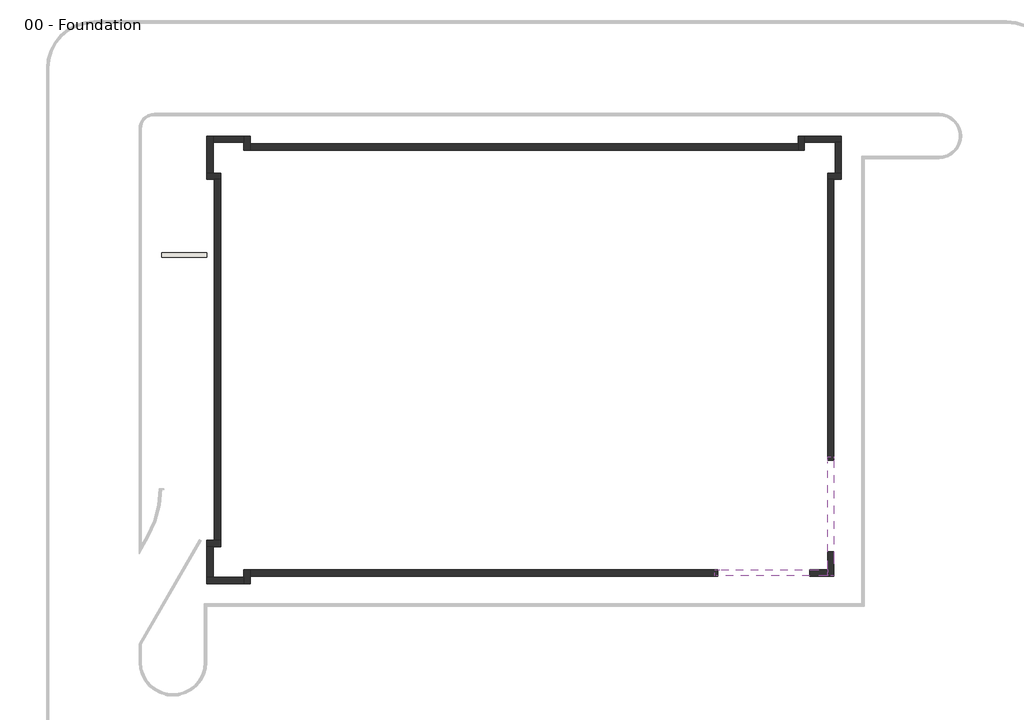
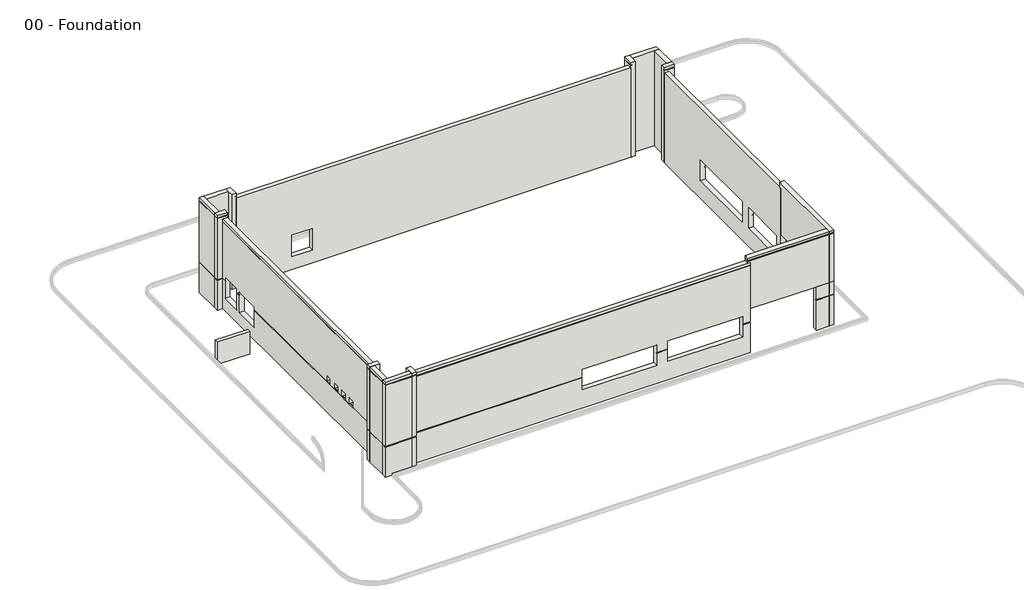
# One storey, part 1 of 2: 21 walls.
"""IFC4 building model written with IfcOpenShell, lengths in millimetres."""

from ifc_helpers import new_model, si_unit, frame, origin, place, context, project, spatial, polyline, outline, extrude, faceted_brep, element, save

model = new_model("IFC4")

# Units and contexts
model_context = context("Model", 3, world=origin())
ifc_project = project(units=[si_unit("LENGTHUNIT", "METRE", prefix="MILLI")], contexts=[model_context])

# Site, building, storey
site = spatial("IfcSite", under=ifc_project)
building = spatial("IfcBuilding", under=site)
storey = spatial("IfcBuildingStorey", under=building, Name="00 - Foundation", Elevation=-1250.0)

# Walls
placement = place(None, origin())
element("IfcWall", 1, ObjectType="Exterior - Render on Brick on Block @ Entry", at=placement, inside=storey, context=model_context, shape_type="Brep", body=[
    faceted_brep([(18351.5272279, -6696.4313057, 3000.0), (18351.5272279, -12792.4313057, 3000.0), (18351.5272279, -13977.9313057, 3000.0), (18351.5272279, -14406.9313057, 3000.0), (18351.5272279, -14406.9313057, 7700.0), (18351.5272279, -14331.9313057, 7700.0), (18351.5272279, -14331.9313057, 7775.0), (18351.5272279, -14406.9313057, 7775.0), (18351.5272279, -14406.9313057, 8000.0), (18351.5272279, -13977.9313057, 8000.0), (18351.5272279, -6910.9313057, 8000.0), (18351.5272279, -6481.9313057, 8000.0), (18351.5272279, -6481.9313057, 7775.0), (18351.5272279, -6556.9313057, 7775.0), (18351.5272279, -6556.9313057, 7700.0), (18351.5272279, -6481.9313057, 7700.0), (18351.5272279, -6481.9313057, 7500.0), (18351.5272279, -6696.4313057, 7500.0), (18780.5272279, -6481.9313057, 8000.0), (18780.5272279, -14406.9313057, 8000.0), (18780.5272279, -14406.9313057, 7775.0), (18780.5272279, -6481.9313057, 7775.0), (18780.5272279, -14406.9313057, 3000.0), (18780.5272279, -12792.4313057, 3000.0), (18780.5272279, -6696.4313057, 3000.0), (18780.5272279, -6696.4313057, 7200.0), (18780.5272279, -6696.4313057, 7275.0), (18780.5272279, -6696.4313057, 7500.0), (18780.5272279, -6481.9313057, 7500.0), (18780.5272279, -6481.9313057, 7700.0), (18780.5272279, -14406.9313057, 7700.0), (18705.5272279, -6556.9313057, 7700.0), (18705.5272279, -6556.9313057, 7775.0), (18705.5272279, -14331.9313057, 7775.0), (18705.5272279, -14331.9313057, 7700.0)], [[[0, 1, 2, 3, 4, 5, 6, 7, 8, 9, 10, 11, 12, 13, 14, 15, 16, 17]], [[18, 19, 20, 21]], [[22, 23, 24, 25, 26, 27, 28, 29, 30]], [[3, 2, 1, 0, 24, 23, 22]], [[11, 10, 9, 8, 19, 18]], [[31, 32, 33, 34]], [[19, 8, 7, 20]], [[3, 22, 30, 4]], [[33, 32, 13, 12, 21, 20, 7, 6]], [[31, 34, 5, 4, 30, 29, 15, 14]], [[32, 31, 14, 13]], [[34, 33, 6, 5]], [[24, 0, 17, 27, 26, 25]], [[28, 27, 17, 16]], [[11, 18, 21, 12]], [[28, 16, 15, 29]]]),
])
element("IfcWall", 2, ObjectType="Exterior - Render on Brick on Block @ Entry", at=placement, inside=storey, context=model_context, shape_type="Brep", body=[
    faceted_brep([(18351.5272279, -13977.9313057, 3000.0), (17166.0272279, -13977.9313057, 3000.0), (11070.0272279, -13977.9313057, 3000.0), (11070.0272279, -13977.9313057, 7500.0), (10855.5272279, -13977.9313057, 7500.0), (10855.5272279, -13977.9313057, 7700.0), (10930.5272279, -13977.9313057, 7700.0), (10930.5272279, -13977.9313057, 7775.0), (10855.5272279, -13977.9313057, 7775.0), (10855.5272279, -13977.9313057, 8000.0), (11284.5272279, -13977.9313057, 8000.0), (18351.5272279, -13977.9313057, 8000.0), (18351.5272279, -14406.9313057, 8000.0), (10855.5272279, -14406.9313057, 8000.0), (10855.5272279, -14406.9313057, 7775.0), (18351.5272279, -14406.9313057, 7775.0), (11070.0272279, -14406.9313057, 3000.0), (17166.0272279, -14406.9313057, 3000.0), (18351.5272279, -14406.9313057, 3000.0), (18351.5272279, -14406.9313057, 7700.0), (10855.5272279, -14406.9313057, 7700.0), (10855.5272279, -14406.9313057, 7500.0), (11070.0272279, -14406.9313057, 7500.0), (11070.0272279, -14406.9313057, 7275.0), (11070.0272279, -14406.9313057, 7200.0), (18351.5272279, -14331.9313057, 7700.0), (18351.5272279, -14331.9313057, 7775.0), (10930.5272279, -14331.9313057, 7775.0), (10930.5272279, -14331.9313057, 7700.0)], [[[0, 1, 2, 3, 4, 5, 6, 7, 8, 9, 10, 11]], [[12, 13, 14, 15]], [[16, 17, 18, 19, 20, 21, 22, 23, 24]], [[2, 1, 0, 18, 17, 16]], [[11, 10, 9, 13, 12]], [[25, 26, 27, 28]], [[0, 11, 12, 15, 26, 25, 19, 18]], [[15, 14, 8, 7, 27, 26]], [[20, 19, 25, 28, 6, 5]], [[2, 16, 24, 23, 22, 3]], [[4, 3, 22, 21]], [[4, 21, 20, 5]], [[13, 9, 8, 14]], [[28, 27, 7, 6]]]),
])
element("IfcWall", 3, ObjectType="Exterior - Render on Brick on Block", at=placement, inside=storey, context=model_context, shape_type="Brep", body=[
    faceted_brep([(11070.0272279, -13977.9313057, -1250.0), (-20031.4727721, -13977.9313057, -1250.0), (-20031.4727721, -13977.9313057, 7500.0), (10855.5272279, -13977.9313057, 7500.0), (11070.0272279, -13977.9313057, 7500.0), (11070.0272279, -13977.9313057, 3000.0), (-4494.4727721, -13977.9313057, 2500.0), (-4494.4727721, -13977.9313057, 500.0), (2430.5272279, -13977.9313057, 500.0), (2430.5272279, -13977.9313057, 2500.0), (10355.5272279, -13977.9313057, 500.0), (10355.5272279, -13977.9313057, 2500.0), (3430.5272279, -13977.9313057, 2500.0), (3430.5272279, -13977.9313057, 500.0), (11070.0272279, -14406.9313057, 7500.0), (-20031.4727721, -14406.9313057, 7500.0), (-20031.4727721, -14406.9313057, 7275.0), (11070.0272279, -14406.9313057, 7275.0), (-20031.4727721, -14406.9313057, -1250.0), (11070.0272279, -14406.9313057, -1250.0), (11070.0272279, -14406.9313057, 1675.0), (10355.5272279, -14406.9313057, 1675.0), (10355.5272279, -14406.9313057, 500.0), (3430.5272279, -14406.9313057, 500.0), (3430.5272279, -14406.9313057, 1675.0), (2430.5272279, -14406.9313057, 1675.0), (2430.5272279, -14406.9313057, 500.0), (-4494.4727721, -14406.9313057, 500.0), (-4494.4727721, -14406.9313057, 1675.0), (-20031.4727721, -14406.9313057, 1675.0), (-20031.4727721, -14406.9313057, 1750.0), (-4494.4727721, -14406.9313057, 1750.0), (-4494.4727721, -14406.9313057, 2500.0), (2430.5272279, -14406.9313057, 2500.0), (2430.5272279, -14406.9313057, 1750.0), (3430.5272279, -14406.9313057, 1750.0), (3430.5272279, -14406.9313057, 2500.0), (10355.5272279, -14406.9313057, 2500.0), (10355.5272279, -14406.9313057, 1750.0), (11070.0272279, -14406.9313057, 1750.0), (11070.0272279, -14406.9313057, 7200.0), (-20031.4727721, -14406.9313057, 7200.0), (11070.0272279, -14331.9313057, 7275.0), (11070.0272279, -14331.9313057, 7200.0), (11070.0272279, -14331.9313057, 1750.0), (11070.0272279, -14331.9313057, 1675.0), (11070.0272279, -14381.9313057, -1250.0), (-20031.4727721, -14381.9313057, -1250.0), (-20031.4727721, -14331.9313057, 1750.0), (-4494.4727721, -14331.9313057, 1750.0), (-4494.4727721, -14331.9313057, 1675.0), (-20031.4727721, -14331.9313057, 1675.0), (-20031.4727721, -14331.9313057, 7275.0), (-20031.4727721, -14331.9313057, 7200.0), (2430.5272279, -14331.9313057, 1675.0), (2430.5272279, -14331.9313057, 1750.0), (3430.5272279, -14331.9313057, 1750.0), (3430.5272279, -14331.9313057, 1675.0), (10355.5272279, -14331.9313057, 1675.0), (10355.5272279, -14331.9313057, 1750.0)], [[[0, 1, 2, 3, 4, 5], [6, 7, 8, 9], [10, 11, 12, 13]], [[14, 15, 16, 17]], [[18, 19, 20, 21, 22, 23, 24, 25, 26, 27, 28, 29]], [[30, 31, 32, 33, 34, 35, 36, 37, 38, 39, 40, 41]], [[4, 3, 2, 15, 14]], [[0, 5, 4, 14, 17, 42, 43, 40, 39, 44, 45, 20, 19, 46]], [[1, 0, 46, 47]], [[46, 19, 18, 47]], [[31, 30, 48, 49]], [[29, 28, 50, 51]], [[49, 48, 51, 50]], [[52, 42, 17, 16]], [[43, 53, 41, 40]], [[42, 52, 53, 43]], [[2, 1, 47, 18, 29, 51, 48, 30, 41, 53, 52, 16, 15]], [[27, 7, 6, 32, 31, 49, 50, 28]], [[32, 6, 9, 33]], [[33, 9, 8, 26, 25, 54, 55, 34]], [[7, 27, 26, 8]], [[55, 56, 35, 34]], [[57, 54, 25, 24]], [[56, 55, 54, 57]], [[10, 22, 21, 58, 59, 38, 37, 11]], [[11, 37, 36, 12]], [[12, 36, 35, 56, 57, 24, 23, 13]], [[22, 10, 13, 23]], [[59, 44, 39, 38]], [[45, 58, 21, 20]], [[44, 59, 58, 45]]]),
])
element("IfcWall", 4, ObjectType="Exterior - Render on Brick on Block", at=placement, inside=storey, context=model_context, shape_type="Brep", body=[
    faceted_brep([(-20460.4727721, -13977.9313057, -1250.0), (-20460.4727721, -14477.7313057, -1250.0), (-20460.4727721, -14906.7313057, -1250.0), (-20460.4727721, -14906.7313057, 1675.0), (-20460.4727721, -14831.7313057, 1675.0), (-20460.4727721, -14831.7313057, 1750.0), (-20460.4727721, -14906.7313057, 1750.0), (-20460.4727721, -14906.7313057, 7700.0), (-20460.4727721, -14831.7313057, 7700.0), (-20460.4727721, -14831.7313057, 7775.0), (-20460.4727721, -14906.7313057, 7775.0), (-20460.4727721, -14906.7313057, 8000.0), (-20460.4727721, -14477.7313057, 8000.0), (-20460.4727721, -13977.9313057, 8000.0), (-20031.4727721, -13977.9313057, 8000.0), (-20031.4727721, -14906.7313057, 8000.0), (-20031.4727721, -14906.7313057, 7775.0), (-20031.4727721, -13977.9313057, 7775.0), (-20031.4727721, -14906.7313057, -1250.0), (-20031.4727721, -14406.9313057, -1250.0), (-20031.4727721, -13977.9313057, -1250.0), (-20031.4727721, -13977.9313057, 7500.0), (-20031.4727721, -13977.9313057, 7700.0), (-20031.4727721, -14906.7313057, 7700.0), (-20031.4727721, -14906.7313057, 1750.0), (-20031.4727721, -14406.9313057, 1750.0), (-20031.4727721, -14331.9313057, 1750.0), (-20031.4727721, -14331.9313057, 1675.0), (-20031.4727721, -14406.9313057, 1675.0), (-20031.4727721, -14906.7313057, 1675.0), (-20056.4727721, -13977.9313057, -1250.0), (-20056.4727721, -14906.7313057, -1250.0), (-20106.4727721, -14331.9313057, 1675.0), (-20106.4727721, -14331.9313057, 1750.0), (-20106.4727721, -14831.7313057, 1750.0), (-20106.4727721, -14831.7313057, 1675.0), (-20106.4727721, -14831.7313057, 7775.0), (-20106.4727721, -13977.9313057, 7775.0), (-20106.4727721, -13977.9313057, 7700.0), (-20106.4727721, -14831.7313057, 7700.0)], [[[0, 1, 2, 3, 4, 5, 6, 7, 8, 9, 10, 11, 12, 13]], [[14, 15, 16, 17]], [[18, 19, 20, 21, 22, 23, 24, 25, 26, 27, 28, 29]], [[13, 12, 11, 15, 14]], [[2, 1, 0, 30, 31]], [[32, 33, 34, 35]], [[36, 37, 17, 16, 10, 9]], [[38, 39, 8, 7, 23, 22]], [[37, 36, 39, 38]], [[0, 13, 14, 17, 37, 38, 22, 21, 20, 30]], [[20, 19, 18, 31, 30]], [[34, 33, 26, 25, 24, 6, 5]], [[32, 35, 4, 3, 29, 28, 27]], [[33, 32, 27, 26]], [[15, 11, 10, 16]], [[2, 31, 18, 29, 3]], [[6, 24, 23, 7]], [[35, 34, 5, 4]], [[39, 36, 9, 8]]]),
])
element("IfcWall", 5, ObjectType="Exterior - Render on Brick on Block", at=placement, inside=storey, context=model_context, shape_type="Brep", body=[
    faceted_brep([(-20460.4727721, -14477.7313057, -1250.0), (-22490.4727721, -14477.7313057, -1250.0), (-22919.4727721, -14477.7313057, -1250.0), (-22919.4727721, -14477.7313057, 1675.0), (-22844.4727721, -14477.7313057, 1675.0), (-22844.4727721, -14477.7313057, 1750.0), (-22919.4727721, -14477.7313057, 1750.0), (-22919.4727721, -14477.7313057, 7700.0), (-22844.4727721, -14477.7313057, 7700.0), (-22844.4727721, -14477.7313057, 7775.0), (-22919.4727721, -14477.7313057, 7775.0), (-22919.4727721, -14477.7313057, 8000.0), (-22490.4727721, -14477.7313057, 8000.0), (-20460.4727721, -14477.7313057, 8000.0), (-20460.4727721, -14906.7313057, 8000.0), (-22919.4727721, -14906.7313057, 8000.0), (-22919.4727721, -14906.7313057, 7775.0), (-20460.4727721, -14906.7313057, 7775.0), (-22919.4727721, -14906.7313057, -1250.0), (-20460.4727721, -14906.7313057, -1250.0), (-20460.4727721, -14906.7313057, 1675.0), (-22919.4727721, -14906.7313057, 1675.0), (-22919.4727721, -14906.7313057, 1750.0), (-20460.4727721, -14906.7313057, 1750.0), (-20460.4727721, -14906.7313057, 7700.0), (-22919.4727721, -14906.7313057, 7700.0), (-20460.4727721, -14881.7313057, -1250.0), (-22919.4727721, -14881.7313057, -1250.0), (-22844.4727721, -14831.7313057, 1675.0), (-20460.4727721, -14831.7313057, 1675.0), (-20460.4727721, -14831.7313057, 1750.0), (-22844.4727721, -14831.7313057, 1750.0), (-22844.4727721, -14831.7313057, 7775.0), (-22844.4727721, -14831.7313057, 7700.0), (-20460.4727721, -14831.7313057, 7700.0), (-20460.4727721, -14831.7313057, 7775.0)], [[[0, 1, 2, 3, 4, 5, 6, 7, 8, 9, 10, 11, 12, 13]], [[14, 15, 16, 17]], [[18, 19, 20, 21]], [[22, 23, 24, 25]], [[13, 12, 11, 15, 14]], [[2, 1, 0, 26, 27]], [[28, 29, 30, 31]], [[32, 33, 34, 35]], [[0, 13, 14, 17, 35, 34, 24, 23, 30, 29, 20, 19, 26]], [[19, 18, 27, 26]], [[31, 30, 23, 22, 6, 5]], [[29, 28, 4, 3, 21, 20]], [[9, 32, 35, 17, 16, 10]], [[34, 33, 8, 7, 25, 24]], [[15, 11, 10, 16]], [[2, 27, 18, 21, 3]], [[6, 22, 25, 7]], [[28, 31, 5, 4]], [[33, 32, 9, 8]]]),
])
element("IfcWall", 6, ObjectType="Exterior - Render on Brick on Block", at=placement, inside=storey, context=model_context, shape_type="SweptSolid", body=[
    extrude(outline(polyline([(-1250.0, -22490.4727721), (8000.0, -22490.4727721), (8000.0, -22919.4727721), (7775.0, -22919.4727721), (7775.0, -22844.4727721), (7700.0, -22844.4727721), (7700.0, -22919.4727721), (1750.0, -22919.4727721), (1750.0, -22844.4727721), (1675.0, -22844.4727721), (1675.0, -22919.4727721), (-1250.0, -22919.4727721), (-1250.0, -22894.4727721), (-1250.0, -22490.4727721)])), frame((0.0, -14477.7313057, 0.0), z_axis=(0.0, 1.0, 0.0), x_axis=(0.0, 0.0, 1.0)), (0.0, 0.0, 1.0), 2030.0),
])
element("IfcWall", 7, ObjectType="Exterior - Render on Brick on Block", at=placement, inside=storey, context=model_context, shape_type="Brep", body=[
    faceted_brep([(-22919.4727721, -12447.7313057, -1250.0), (-22490.4727721, -12447.7313057, -1250.0), (-21990.4727721, -12447.7313057, -1250.0), (-21990.4727721, -12447.7313057, 8000.0), (-22490.4727721, -12447.7313057, 8000.0), (-22919.4727721, -12447.7313057, 8000.0), (-22919.4727721, -12447.7313057, 7775.0), (-22844.4727721, -12447.7313057, 7775.0), (-22844.4727721, -12447.7313057, 7700.0), (-22919.4727721, -12447.7313057, 7700.0), (-22919.4727721, -12447.7313057, 1750.0), (-22844.4727721, -12447.7313057, 1750.0), (-22844.4727721, -12447.7313057, 1675.0), (-22919.4727721, -12447.7313057, 1675.0), (-22919.4727721, -12018.7313057, 8000.0), (-21990.4727721, -12018.7313057, 8000.0), (-21990.4727721, -12018.7313057, 7775.0), (-22919.4727721, -12018.7313057, 7775.0), (-21990.4727721, -12018.7313057, -1250.0), (-22419.4727721, -12018.7313057, -1250.0), (-22919.4727721, -12018.7313057, -1250.0), (-22919.4727721, -12018.7313057, 1675.0), (-22419.4727721, -12018.7313057, 1675.0), (-22344.4727721, -12018.7313057, 1675.0), (-22344.4727721, -12018.7313057, 1750.0), (-22419.4727721, -12018.7313057, 1750.0), (-22919.4727721, -12018.7313057, 1750.0), (-22919.4727721, -12018.7313057, 7700.0), (-21990.4727721, -12018.7313057, 7700.0), (-21990.4727721, -12018.7313057, 7500.0), (-22919.4727721, -12043.7313057, -1250.0), (-21990.4727721, -12043.7313057, -1250.0), (-22844.4727721, -12093.7313057, 1675.0), (-22844.4727721, -12093.7313057, 1750.0), (-22344.4727721, -12093.7313057, 1750.0), (-22344.4727721, -12093.7313057, 1675.0), (-22844.4727721, -12093.7313057, 7775.0), (-21990.4727721, -12093.7313057, 7775.0), (-21990.4727721, -12093.7313057, 7700.0), (-22844.4727721, -12093.7313057, 7700.0)], [[[0, 1, 2, 3, 4, 5, 6, 7, 8, 9, 10, 11, 12, 13]], [[14, 15, 16, 17]], [[18, 19, 20, 21, 22, 23, 24, 25, 26, 27, 28, 29]], [[5, 4, 3, 15, 14]], [[2, 1, 0, 30, 31]], [[32, 33, 34, 35]], [[36, 37, 38, 39]], [[5, 14, 17, 6]], [[30, 0, 13, 21, 20]], [[26, 10, 9, 27]], [[20, 19, 18, 31, 30]], [[34, 33, 11, 10, 26, 25, 24]], [[32, 35, 23, 22, 21, 13, 12]], [[33, 32, 12, 11]], [[37, 36, 7, 6, 17, 16]], [[39, 38, 28, 27, 9, 8]], [[36, 39, 8, 7]], [[3, 2, 31, 18, 29, 28, 38, 37, 16, 15]], [[35, 34, 24, 23]]]),
])
element("IfcWall", 8, ObjectType="Exterior - Render on Brick on Block", at=placement, inside=storey, context=model_context, shape_type="Brep", body=[
    faceted_brep([(-21990.4727721, -12018.7313057, -1250.0), (-21990.4727721, 11955.0686943, -1250.0), (-21990.4727721, 11955.0686943, 7500.0), (-21990.4727721, -12018.7313057, 7500.0), (-21990.4727721, 9255.0686943, 2000.0), (-21990.4727721, 9255.0686943, 0.0), (-21990.4727721, 6855.0686943, 0.0), (-21990.4727721, 6855.0686943, 2000.0), (-21990.4727721, 9655.0686943, 2100.0), (-21990.4727721, 11555.0686943, 2100.0), (-21990.4727721, 11555.0686943, 0.0), (-21990.4727721, 9655.0686943, 0.0), (-21990.4727721, -5291.1813057, 1750.0), (-21990.4727721, -5291.1813057, 2360.0), (-21990.4727721, -4681.1813057, 2360.0), (-21990.4727721, -4681.1813057, 1750.0), (-21990.4727721, -6501.1813057, 1750.0), (-21990.4727721, -6501.1813057, 2360.0), (-21990.4727721, -5891.1813057, 2360.0), (-21990.4727721, -5891.1813057, 1750.0), (-21990.4727721, -7711.1813057, 1750.0), (-21990.4727721, -7711.1813057, 2360.0), (-21990.4727721, -7101.1813057, 2360.0), (-21990.4727721, -7101.1813057, 1750.0), (-21990.4727721, -8921.1813057, 1750.0), (-21990.4727721, -8921.1813057, 2360.0), (-21990.4727721, -8311.1813057, 2360.0), (-21990.4727721, -8311.1813057, 1750.0), (-22419.4727721, -12018.7313057, 7500.0), (-22419.4727721, 11955.0686943, 7500.0), (-22419.4727721, 11955.0686943, 7275.0), (-22419.4727721, -12018.7313057, 7275.0), (-22419.4727721, 11955.0686943, -1250.0), (-22419.4727721, -12018.7313057, -1250.0), (-22419.4727721, -12018.7313057, 1675.0), (-22419.4727721, 6855.0686943, 1675.0), (-22419.4727721, 6855.0686943, 0.0), (-22419.4727721, 9255.0686943, 0.0), (-22419.4727721, 9255.0686943, 1675.0), (-22419.4727721, 9655.0686943, 1675.0), (-22419.4727721, 9655.0686943, 0.0), (-22419.4727721, 11555.0686943, 0.0), (-22419.4727721, 11555.0686943, 1675.0), (-22419.4727721, 11955.0686943, 1675.0), (-22419.4727721, 11955.0686943, 1750.0), (-22419.4727721, 11555.0686943, 1750.0), (-22419.4727721, 11555.0686943, 2100.0), (-22419.4727721, 9655.0686943, 2100.0), (-22419.4727721, 9655.0686943, 1750.0), (-22419.4727721, 9255.0686943, 1750.0), (-22419.4727721, 9255.0686943, 2000.0), (-22419.4727721, 6855.0686943, 2000.0), (-22419.4727721, 6855.0686943, 1750.0), (-22419.4727721, -4681.1813057, 1750.0), (-22419.4727721, -4681.1813057, 2360.0), (-22419.4727721, -5291.1813057, 2360.0), (-22419.4727721, -5291.1813057, 1750.0), (-22419.4727721, -5891.1813057, 1750.0), (-22419.4727721, -5891.1813057, 2360.0), (-22419.4727721, -6501.1813057, 2360.0), (-22419.4727721, -6501.1813057, 1750.0), (-22419.4727721, -7101.1813057, 1750.0), (-22419.4727721, -7101.1813057, 2360.0), (-22419.4727721, -7711.1813057, 2360.0), (-22419.4727721, -7711.1813057, 1750.0), (-22419.4727721, -8311.1813057, 1750.0), (-22419.4727721, -8311.1813057, 2360.0), (-22419.4727721, -8921.1813057, 2360.0), (-22419.4727721, -8921.1813057, 1750.0), (-22419.4727721, -12018.7313057, 1750.0), (-22419.4727721, -12018.7313057, 7200.0), (-22419.4727721, 11955.0686943, 7200.0), (-22394.4727721, -12018.7313057, -1250.0), (-22394.4727721, 11955.0686943, -1250.0), (-22344.4727721, 11955.0686943, 1750.0), (-22344.4727721, 11555.0686943, 1750.0), (-22344.4727721, 11555.0686943, 1675.0), (-22344.4727721, 11955.0686943, 1675.0), (-22344.4727721, 11955.0686943, 7275.0), (-22344.4727721, -12018.7313057, 7275.0), (-22344.4727721, -12018.7313057, 7200.0), (-22344.4727721, 11955.0686943, 7200.0), (-22344.4727721, -12018.7313057, 1750.0), (-22344.4727721, -12018.7313057, 1675.0), (-22344.4727721, -8921.1813057, 1750.0), (-22344.4727721, 6855.0686943, 1750.0), (-22344.4727721, -4681.1813057, 1750.0), (-22344.4727721, -5291.1813057, 1750.0), (-22344.4727721, -5891.1813057, 1750.0), (-22344.4727721, -6501.1813057, 1750.0), (-22344.4727721, -7101.1813057, 1750.0), (-22344.4727721, -7711.1813057, 1750.0), (-22344.4727721, -8311.1813057, 1750.0), (-22344.4727721, 6855.0686943, 1675.0), (-22344.4727721, 9255.0686943, 1750.0), (-22344.4727721, 9255.0686943, 1675.0), (-22344.4727721, 9655.0686943, 1750.0), (-22344.4727721, 9655.0686943, 1675.0)], [[[0, 1, 2, 3], [4, 5, 6, 7], [8, 9, 10, 11], [12, 13, 14, 15], [16, 17, 18, 19], [20, 21, 22, 23], [24, 25, 26, 27]], [[28, 29, 30, 31]], [[32, 33, 34, 35, 36, 37, 38, 39, 40, 41, 42, 43]], [[44, 45, 46, 47, 48, 49, 50, 51, 52, 53, 54, 55, 56, 57, 58, 59, 60, 61, 62, 63, 64, 65, 66, 67, 68, 69, 70, 71]], [[3, 2, 29, 28]], [[1, 0, 72, 73]], [[45, 44, 74, 75]], [[43, 42, 76, 77]], [[77, 76, 75, 74]], [[78, 79, 31, 30]], [[80, 81, 71, 70]], [[79, 78, 81, 80]], [[0, 3, 28, 31, 79, 80, 70, 69, 82, 83, 34, 33, 72]], [[33, 32, 73, 72]], [[69, 68, 84, 82]], [[52, 85, 86, 53]], [[57, 56, 87, 88]], [[61, 60, 89, 90]], [[65, 64, 91, 92]], [[35, 34, 83, 93]], [[2, 1, 73, 32, 43, 77, 74, 44, 71, 81, 78, 30, 29]], [[5, 4, 50, 49, 94, 95, 38, 37]], [[51, 50, 4, 7]], [[7, 6, 36, 35, 93, 85, 52, 51]], [[37, 36, 6, 5]], [[94, 96, 97, 95]], [[96, 94, 49, 48]], [[95, 97, 39, 38]], [[8, 47, 46, 9]], [[47, 8, 11, 40, 39, 97, 96, 48]], [[40, 11, 10, 41]], [[9, 46, 45, 75, 76, 42, 41, 10]], [[93, 83, 82, 84, 92, 91, 90, 89, 88, 87, 86, 85]], [[13, 12, 87, 56, 55]], [[14, 13, 55, 54]], [[15, 14, 54, 53, 86]], [[12, 15, 86, 87]], [[17, 16, 89, 60, 59]], [[18, 17, 59, 58]], [[19, 18, 58, 57, 88]], [[16, 19, 88, 89]], [[21, 20, 91, 64, 63]], [[22, 21, 63, 62]], [[23, 22, 62, 61, 90]], [[20, 23, 90, 91]], [[25, 24, 84, 68, 67]], [[26, 25, 67, 66]], [[27, 26, 66, 65, 92]], [[24, 27, 92, 84]]]),
])
element("IfcWall", 9, ObjectType="Exterior - Render on Brick on Block", at=placement, inside=storey, context=model_context, shape_type="Brep", body=[
    faceted_brep([(-21990.4727721, 12384.0686943, -1250.0), (-22490.4727721, 12384.0686943, -1250.0), (-22919.4727721, 12384.0686943, -1250.0), (-22919.4727721, 12384.0686943, 1675.0), (-22844.4727721, 12384.0686943, 1675.0), (-22844.4727721, 12384.0686943, 1750.0), (-22919.4727721, 12384.0686943, 1750.0), (-22919.4727721, 12384.0686943, 7700.0), (-22844.4727721, 12384.0686943, 7700.0), (-22844.4727721, 12384.0686943, 7775.0), (-22919.4727721, 12384.0686943, 7775.0), (-22919.4727721, 12384.0686943, 8000.0), (-22490.4727721, 12384.0686943, 8000.0), (-21990.4727721, 12384.0686943, 8000.0), (-21990.4727721, 11955.0686943, 8000.0), (-22919.4727721, 11955.0686943, 8000.0), (-22919.4727721, 11955.0686943, 7775.0), (-21990.4727721, 11955.0686943, 7775.0), (-22919.4727721, 11955.0686943, -1250.0), (-22419.4727721, 11955.0686943, -1250.0), (-21990.4727721, 11955.0686943, -1250.0), (-21990.4727721, 11955.0686943, 7500.0), (-21990.4727721, 11955.0686943, 7700.0), (-22919.4727721, 11955.0686943, 7700.0), (-22919.4727721, 11955.0686943, 1750.0), (-22419.4727721, 11955.0686943, 1750.0), (-22344.4727721, 11955.0686943, 1750.0), (-22344.4727721, 11955.0686943, 1675.0), (-22419.4727721, 11955.0686943, 1675.0), (-22919.4727721, 11955.0686943, 1675.0), (-21990.4727721, 11980.0686943, -1250.0), (-22919.4727721, 11980.0686943, -1250.0), (-22344.4727721, 12030.0686943, 1675.0), (-22344.4727721, 12030.0686943, 1750.0), (-22844.4727721, 12030.0686943, 1750.0), (-22844.4727721, 12030.0686943, 1675.0), (-22844.4727721, 12030.0686943, 7775.0), (-21990.4727721, 12030.0686943, 7775.0), (-21990.4727721, 12030.0686943, 7700.0), (-22844.4727721, 12030.0686943, 7700.0)], [[[0, 1, 2, 3, 4, 5, 6, 7, 8, 9, 10, 11, 12, 13]], [[14, 15, 16, 17]], [[18, 19, 20, 21, 22, 23, 24, 25, 26, 27, 28, 29]], [[13, 12, 11, 15, 14]], [[2, 1, 0, 30, 31]], [[32, 33, 34, 35]], [[36, 37, 17, 16, 10, 9]], [[38, 39, 8, 7, 23, 22]], [[37, 36, 39, 38]], [[0, 13, 14, 17, 37, 38, 22, 21, 20, 30]], [[20, 19, 18, 31, 30]], [[34, 33, 26, 25, 24, 6, 5]], [[32, 35, 4, 3, 29, 28, 27]], [[33, 32, 27, 26]], [[15, 11, 10, 16]], [[2, 31, 18, 29, 3]], [[6, 24, 23, 7]], [[35, 34, 5, 4]], [[39, 36, 9, 8]]]),
])
element("IfcWall", 10, ObjectType="Exterior - Render on Brick on Block", at=placement, inside=storey, context=model_context, shape_type="Brep", body=[
    faceted_brep([(-22490.4727721, 12384.0686943, -1250.0), (-22490.4727721, 14414.0686943, -1250.0), (-22490.4727721, 14843.0686943, -1250.0), (-22490.4727721, 14843.0686943, 1675.0), (-22490.4727721, 14768.0686943, 1675.0), (-22490.4727721, 14768.0686943, 1750.0), (-22490.4727721, 14843.0686943, 1750.0), (-22490.4727721, 14843.0686943, 7700.0), (-22490.4727721, 14768.0686943, 7700.0), (-22490.4727721, 14768.0686943, 7775.0), (-22490.4727721, 14843.0686943, 7775.0), (-22490.4727721, 14843.0686943, 8000.0), (-22490.4727721, 14414.0686943, 8000.0), (-22490.4727721, 12384.0686943, 8000.0), (-22919.4727721, 12384.0686943, 8000.0), (-22919.4727721, 14843.0686943, 8000.0), (-22919.4727721, 14843.0686943, 7775.0), (-22919.4727721, 12384.0686943, 7775.0), (-22919.4727721, 14843.0686943, -1250.0), (-22919.4727721, 12384.0686943, -1250.0), (-22919.4727721, 12384.0686943, 1675.0), (-22919.4727721, 14843.0686943, 1675.0), (-22919.4727721, 14843.0686943, 1750.0), (-22919.4727721, 12384.0686943, 1750.0), (-22919.4727721, 12384.0686943, 7700.0), (-22919.4727721, 14843.0686943, 7700.0), (-22894.4727721, 12384.0686943, -1250.0), (-22894.4727721, 14843.0686943, -1250.0), (-22844.4727721, 14768.0686943, 1675.0), (-22844.4727721, 12384.0686943, 1675.0), (-22844.4727721, 12384.0686943, 1750.0), (-22844.4727721, 14768.0686943, 1750.0), (-22844.4727721, 14768.0686943, 7775.0), (-22844.4727721, 14768.0686943, 7700.0), (-22844.4727721, 12384.0686943, 7700.0), (-22844.4727721, 12384.0686943, 7775.0)], [[[0, 1, 2, 3, 4, 5, 6, 7, 8, 9, 10, 11, 12, 13]], [[14, 15, 16, 17]], [[18, 19, 20, 21]], [[22, 23, 24, 25]], [[13, 12, 11, 15, 14]], [[2, 1, 0, 26, 27]], [[28, 29, 30, 31]], [[32, 33, 34, 35]], [[0, 13, 14, 17, 35, 34, 24, 23, 30, 29, 20, 19, 26]], [[19, 18, 27, 26]], [[31, 30, 23, 22, 6, 5]], [[29, 28, 4, 3, 21, 20]], [[9, 32, 35, 17, 16, 10]], [[34, 33, 8, 7, 25, 24]], [[15, 11, 10, 16]], [[2, 27, 18, 21, 3]], [[6, 22, 25, 7]], [[28, 31, 5, 4]], [[33, 32, 9, 8]]]),
])
element("IfcWall", 11, ObjectType="Exterior - Render on Brick on Block", at=placement, inside=storey, context=model_context, shape_type="SweptSolid", body=[
    extrude(outline(polyline([(14414.0686943, -1250.0), (14414.0686943, 8000.0), (14843.0686943, 8000.0), (14843.0686943, 7775.0), (14768.0686943, 7775.0), (14768.0686943, 7700.0), (14843.0686943, 7700.0), (14843.0686943, 1750.0), (14768.0686943, 1750.0), (14768.0686943, 1675.0), (14843.0686943, 1675.0), (14843.0686943, -1250.0), (14818.0686943, -1250.0), (14414.0686943, -1250.0)])), frame((-22490.4727721, 0.0, 0.0), z_axis=(1.0, 0.0, 0.0), x_axis=(0.0, 1.0, 0.0)), (0.0, 0.0, 1.0), 2030.0),
])
element("IfcWall", 12, ObjectType="Exterior - Render on Brick on Block", at=placement, inside=storey, context=model_context, shape_type="Brep", body=[
    faceted_brep([(-20460.4727721, 14843.0686943, -1250.0), (-20460.4727721, 14414.0686943, -1250.0), (-20460.4727721, 13914.0686943, -1250.0), (-20460.4727721, 13914.0686943, 8000.0), (-20460.4727721, 14414.0686943, 8000.0), (-20460.4727721, 14843.0686943, 8000.0), (-20460.4727721, 14843.0686943, 7775.0), (-20460.4727721, 14768.0686943, 7775.0), (-20460.4727721, 14768.0686943, 7700.0), (-20460.4727721, 14843.0686943, 7700.0), (-20460.4727721, 14843.0686943, 1750.0), (-20460.4727721, 14768.0686943, 1750.0), (-20460.4727721, 14768.0686943, 1675.0), (-20460.4727721, 14843.0686943, 1675.0), (-20031.4727721, 14843.0686943, 8000.0), (-20031.4727721, 13914.0686943, 8000.0), (-20031.4727721, 13914.0686943, 7775.0), (-20031.4727721, 14843.0686943, 7775.0), (-20031.4727721, 13914.0686943, -1250.0), (-20031.4727721, 14343.0686943, -1250.0), (-20031.4727721, 14843.0686943, -1250.0), (-20031.4727721, 14843.0686943, 1675.0), (-20031.4727721, 14343.0686943, 1675.0), (-20031.4727721, 14268.0686943, 1675.0), (-20031.4727721, 14268.0686943, 1750.0), (-20031.4727721, 14343.0686943, 1750.0), (-20031.4727721, 14843.0686943, 1750.0), (-20031.4727721, 14843.0686943, 7700.0), (-20031.4727721, 13914.0686943, 7700.0), (-20031.4727721, 13914.0686943, 7500.0), (-20056.4727721, 14843.0686943, -1250.0), (-20056.4727721, 13914.0686943, -1250.0), (-20106.4727721, 14768.0686943, 1675.0), (-20106.4727721, 14768.0686943, 1750.0), (-20106.4727721, 14268.0686943, 1750.0), (-20106.4727721, 14268.0686943, 1675.0), (-20106.4727721, 14768.0686943, 7775.0), (-20106.4727721, 13914.0686943, 7775.0), (-20106.4727721, 13914.0686943, 7700.0), (-20106.4727721, 14768.0686943, 7700.0)], [[[0, 1, 2, 3, 4, 5, 6, 7, 8, 9, 10, 11, 12, 13]], [[14, 15, 16, 17]], [[18, 19, 20, 21, 22, 23, 24, 25, 26, 27, 28, 29]], [[5, 4, 3, 15, 14]], [[2, 1, 0, 30, 31]], [[32, 33, 34, 35]], [[36, 37, 38, 39]], [[5, 14, 17, 6]], [[30, 0, 13, 21, 20]], [[26, 10, 9, 27]], [[20, 19, 18, 31, 30]], [[34, 33, 11, 10, 26, 25, 24]], [[32, 35, 23, 22, 21, 13, 12]], [[33, 32, 12, 11]], [[37, 36, 7, 6, 17, 16]], [[39, 38, 28, 27, 9, 8]], [[36, 39, 8, 7]], [[3, 2, 31, 18, 29, 28, 38, 37, 16, 15]], [[35, 34, 24, 23]]]),
])
element("IfcWall", 13, ObjectType="Exterior - Render on Brick on Block", at=placement, inside=storey, context=model_context, shape_type="Brep", body=[
    faceted_brep([(-20031.4727721, 13914.0686943, -1250.0), (16392.5272279, 13914.0686943, -1250.0), (16392.5272279, 13914.0686943, 7500.0), (-20031.4727721, 13914.0686943, 7500.0), (-14912.4227721, 13914.0686943, 0.0), (-14912.4227721, 13914.0686943, 2100.0), (-13012.4227721, 13914.0686943, 2100.0), (-13012.4227721, 13914.0686943, 0.0), (-20031.4727721, 14343.0686943, 7500.0), (16392.5272279, 14343.0686943, 7500.0), (16392.5272279, 14343.0686943, 7275.0), (-20031.4727721, 14343.0686943, 7275.0), (16392.5272279, 14343.0686943, -1250.0), (-20031.4727721, 14343.0686943, -1250.0), (-20031.4727721, 14343.0686943, 1675.0), (-14912.4227721, 14343.0686943, 1675.0), (-14912.4227721, 14343.0686943, 0.0), (-13012.4227721, 14343.0686943, 0.0), (-13012.4227721, 14343.0686943, 1675.0), (16392.5272279, 14343.0686943, 1675.0), (16392.5272279, 14343.0686943, 1750.0), (-13012.4227721, 14343.0686943, 1750.0), (-13012.4227721, 14343.0686943, 2100.0), (-14912.4227721, 14343.0686943, 2100.0), (-14912.4227721, 14343.0686943, 1750.0), (-20031.4727721, 14343.0686943, 1750.0), (-20031.4727721, 14343.0686943, 7200.0), (16392.5272279, 14343.0686943, 7200.0), (-20031.4727721, 14318.0686943, -1250.0), (16392.5272279, 14318.0686943, -1250.0), (16392.5272279, 14268.0686943, 1750.0), (-13012.4227721, 14268.0686943, 1750.0), (-13012.4227721, 14268.0686943, 1675.0), (16392.5272279, 14268.0686943, 1675.0), (16392.5272279, 14268.0686943, 7275.0), (-20031.4727721, 14268.0686943, 7275.0), (-20031.4727721, 14268.0686943, 7200.0), (16392.5272279, 14268.0686943, 7200.0), (-20031.4727721, 14268.0686943, 1750.0), (-20031.4727721, 14268.0686943, 1675.0), (-14912.4227721, 14268.0686943, 1750.0), (-14912.4227721, 14268.0686943, 1675.0)], [[[0, 1, 2, 3], [4, 5, 6, 7]], [[8, 9, 10, 11]], [[12, 13, 14, 15, 16, 17, 18, 19]], [[20, 21, 22, 23, 24, 25, 26, 27]], [[3, 2, 9, 8]], [[1, 0, 28, 29]], [[21, 20, 30, 31]], [[19, 18, 32, 33]], [[33, 32, 31, 30]], [[34, 35, 11, 10]], [[36, 37, 27, 26]], [[35, 34, 37, 36]], [[0, 3, 8, 11, 35, 36, 26, 25, 38, 39, 14, 13, 28]], [[13, 12, 29, 28]], [[25, 24, 40, 38]], [[15, 14, 39, 41]], [[2, 1, 29, 12, 19, 33, 30, 20, 27, 37, 34, 10, 9]], [[5, 4, 16, 15, 41, 40, 24, 23]], [[6, 5, 23, 22]], [[7, 6, 22, 21, 31, 32, 18, 17]], [[4, 7, 17, 16]], [[38, 40, 41, 39]]]),
])
element("IfcWall", 14, ObjectType="Exterior - Render on Brick on Block", at=placement, inside=storey, context=model_context, shape_type="Brep", body=[
    faceted_brep([(16821.5272279, 13914.0686943, -1250.0), (16821.5272279, 14414.0686943, -1250.0), (16821.5272279, 14843.0686943, -1250.0), (16821.5272279, 14843.0686943, 1675.0), (16821.5272279, 14768.0686943, 1675.0), (16821.5272279, 14768.0686943, 1750.0), (16821.5272279, 14843.0686943, 1750.0), (16821.5272279, 14843.0686943, 7700.0), (16821.5272279, 14768.0686943, 7700.0), (16821.5272279, 14768.0686943, 7775.0), (16821.5272279, 14843.0686943, 7775.0), (16821.5272279, 14843.0686943, 8000.0), (16821.5272279, 14414.0686943, 8000.0), (16821.5272279, 13914.0686943, 8000.0), (16392.5272279, 13914.0686943, 8000.0), (16392.5272279, 14843.0686943, 8000.0), (16392.5272279, 14843.0686943, 7775.0), (16392.5272279, 13914.0686943, 7775.0), (16392.5272279, 14843.0686943, -1250.0), (16392.5272279, 14343.0686943, -1250.0), (16392.5272279, 13914.0686943, -1250.0), (16392.5272279, 13914.0686943, 7500.0), (16392.5272279, 13914.0686943, 7700.0), (16392.5272279, 14843.0686943, 7700.0), (16392.5272279, 14843.0686943, 1750.0), (16392.5272279, 14343.0686943, 1750.0), (16392.5272279, 14268.0686943, 1750.0), (16392.5272279, 14268.0686943, 1675.0), (16392.5272279, 14343.0686943, 1675.0), (16392.5272279, 14843.0686943, 1675.0), (16417.5272279, 13914.0686943, -1250.0), (16417.5272279, 14843.0686943, -1250.0), (16467.5272279, 14268.0686943, 1675.0), (16467.5272279, 14268.0686943, 1750.0), (16467.5272279, 14768.0686943, 1750.0), (16467.5272279, 14768.0686943, 1675.0), (16467.5272279, 14768.0686943, 7775.0), (16467.5272279, 13914.0686943, 7775.0), (16467.5272279, 13914.0686943, 7700.0), (16467.5272279, 14768.0686943, 7700.0)], [[[0, 1, 2, 3, 4, 5, 6, 7, 8, 9, 10, 11, 12, 13]], [[14, 15, 16, 17]], [[18, 19, 20, 21, 22, 23, 24, 25, 26, 27, 28, 29]], [[13, 12, 11, 15, 14]], [[2, 1, 0, 30, 31]], [[32, 33, 34, 35]], [[36, 37, 17, 16, 10, 9]], [[38, 39, 8, 7, 23, 22]], [[37, 36, 39, 38]], [[0, 13, 14, 17, 37, 38, 22, 21, 20, 30]], [[20, 19, 18, 31, 30]], [[34, 33, 26, 25, 24, 6, 5]], [[32, 35, 4, 3, 29, 28, 27]], [[33, 32, 27, 26]], [[15, 11, 10, 16]], [[2, 31, 18, 29, 3]], [[6, 24, 23, 7]], [[35, 34, 5, 4]], [[39, 36, 9, 8]]]),
])
element("IfcWall", 15, ObjectType="Exterior - Render on Brick on Block", at=placement, inside=storey, context=model_context, shape_type="Brep", body=[
    faceted_brep([(16821.5272279, 14414.0686943, -1250.0), (18851.5272279, 14414.0686943, -1250.0), (19280.5272279, 14414.0686943, -1250.0), (19280.5272279, 14414.0686943, 1675.0), (19205.5272279, 14414.0686943, 1675.0), (19205.5272279, 14414.0686943, 1750.0), (19280.5272279, 14414.0686943, 1750.0), (19280.5272279, 14414.0686943, 7700.0), (19205.5272279, 14414.0686943, 7700.0), (19205.5272279, 14414.0686943, 7775.0), (19280.5272279, 14414.0686943, 7775.0), (19280.5272279, 14414.0686943, 8000.0), (18851.5272279, 14414.0686943, 8000.0), (16821.5272279, 14414.0686943, 8000.0), (16821.5272279, 14843.0686943, 8000.0), (19280.5272279, 14843.0686943, 8000.0), (19280.5272279, 14843.0686943, 7775.0), (16821.5272279, 14843.0686943, 7775.0), (19280.5272279, 14843.0686943, -1250.0), (16821.5272279, 14843.0686943, -1250.0), (16821.5272279, 14843.0686943, 1675.0), (19280.5272279, 14843.0686943, 1675.0), (19280.5272279, 14843.0686943, 1750.0), (16821.5272279, 14843.0686943, 1750.0), (16821.5272279, 14843.0686943, 7700.0), (19280.5272279, 14843.0686943, 7700.0), (16821.5272279, 14818.0686943, -1250.0), (19280.5272279, 14818.0686943, -1250.0), (19205.5272279, 14768.0686943, 1675.0), (16821.5272279, 14768.0686943, 1675.0), (16821.5272279, 14768.0686943, 1750.0), (19205.5272279, 14768.0686943, 1750.0), (19205.5272279, 14768.0686943, 7775.0), (19205.5272279, 14768.0686943, 7700.0), (16821.5272279, 14768.0686943, 7700.0), (16821.5272279, 14768.0686943, 7775.0)], [[[0, 1, 2, 3, 4, 5, 6, 7, 8, 9, 10, 11, 12, 13]], [[14, 15, 16, 17]], [[18, 19, 20, 21]], [[22, 23, 24, 25]], [[13, 12, 11, 15, 14]], [[2, 1, 0, 26, 27]], [[28, 29, 30, 31]], [[32, 33, 34, 35]], [[0, 13, 14, 17, 35, 34, 24, 23, 30, 29, 20, 19, 26]], [[19, 18, 27, 26]], [[31, 30, 23, 22, 6, 5]], [[29, 28, 4, 3, 21, 20]], [[9, 32, 35, 17, 16, 10]], [[34, 33, 8, 7, 25, 24]], [[15, 11, 10, 16]], [[2, 27, 18, 21, 3]], [[6, 22, 25, 7]], [[28, 31, 5, 4]], [[33, 32, 9, 8]]]),
])
element("IfcWall", 16, ObjectType="Exterior - Render on Brick on Block", at=placement, inside=storey, context=model_context, shape_type="SweptSolid", body=[
    extrude(outline(polyline([(8000.0, 18851.5272279), (-1250.0, 18851.5272279), (-1250.0, 19255.5272279), (-1250.0, 19280.5272279), (1675.0, 19280.5272279), (1675.0, 19205.5272279), (1750.0, 19205.5272279), (1750.0, 19280.5272279), (7700.0, 19280.5272279), (7700.0, 19205.5272279), (7775.0, 19205.5272279), (7775.0, 19280.5272279), (8000.0, 19280.5272279), (8000.0, 18851.5272279)])), frame((0.0, 12384.0686943, 0.0), z_axis=(0.0, 1.0, 0.0), x_axis=(0.0, 0.0, 1.0)), (0.0, 0.0, 1.0), 2030.0),
])
element("IfcWall", 17, ObjectType="Exterior - Render on Brick on Block", at=placement, inside=storey, context=model_context, shape_type="Brep", body=[
    faceted_brep([(19280.5272279, 12384.0686943, -1250.0), (18851.5272279, 12384.0686943, -1250.0), (18351.5272279, 12384.0686943, -1250.0), (18351.5272279, 12384.0686943, 8000.0), (18851.5272279, 12384.0686943, 8000.0), (19280.5272279, 12384.0686943, 8000.0), (19280.5272279, 12384.0686943, 7775.0), (19205.5272279, 12384.0686943, 7775.0), (19205.5272279, 12384.0686943, 7700.0), (19280.5272279, 12384.0686943, 7700.0), (19280.5272279, 12384.0686943, 1750.0), (19205.5272279, 12384.0686943, 1750.0), (19205.5272279, 12384.0686943, 1675.0), (19280.5272279, 12384.0686943, 1675.0), (19280.5272279, 11955.0686943, 8000.0), (18351.5272279, 11955.0686943, 8000.0), (18351.5272279, 11955.0686943, 7775.0), (19280.5272279, 11955.0686943, 7775.0), (18351.5272279, 11955.0686943, -1250.0), (18780.5272279, 11955.0686943, -1250.0), (19280.5272279, 11955.0686943, -1250.0), (19280.5272279, 11955.0686943, 1675.0), (18780.5272279, 11955.0686943, 1675.0), (18705.5272279, 11955.0686943, 1675.0), (18705.5272279, 11955.0686943, 1750.0), (18780.5272279, 11955.0686943, 1750.0), (19280.5272279, 11955.0686943, 1750.0), (19280.5272279, 11955.0686943, 7700.0), (18351.5272279, 11955.0686943, 7700.0), (18351.5272279, 11955.0686943, 7500.0), (19280.5272279, 11980.0686943, -1250.0), (18351.5272279, 11980.0686943, -1250.0), (19205.5272279, 12030.0686943, 1675.0), (19205.5272279, 12030.0686943, 1750.0), (18705.5272279, 12030.0686943, 1750.0), (18705.5272279, 12030.0686943, 1675.0), (19205.5272279, 12030.0686943, 7775.0), (18351.5272279, 12030.0686943, 7775.0), (18351.5272279, 12030.0686943, 7700.0), (19205.5272279, 12030.0686943, 7700.0)], [[[0, 1, 2, 3, 4, 5, 6, 7, 8, 9, 10, 11, 12, 13]], [[14, 15, 16, 17]], [[18, 19, 20, 21, 22, 23, 24, 25, 26, 27, 28, 29]], [[5, 4, 3, 15, 14]], [[2, 1, 0, 30, 31]], [[32, 33, 34, 35]], [[36, 37, 38, 39]], [[5, 14, 17, 6]], [[30, 0, 13, 21, 20]], [[26, 10, 9, 27]], [[20, 19, 18, 31, 30]], [[34, 33, 11, 10, 26, 25, 24]], [[32, 35, 23, 22, 21, 13, 12]], [[33, 32, 12, 11]], [[37, 36, 7, 6, 17, 16]], [[39, 38, 28, 27, 9, 8]], [[36, 39, 8, 7]], [[3, 2, 31, 18, 29, 28, 38, 37, 16, 15]], [[35, 34, 24, 23]]]),
])
element("IfcWall", 18, ObjectType="Exterior - Render on Brick on Block", at=placement, inside=storey, context=model_context, shape_type="Brep", body=[
    faceted_brep([(18351.5272279, 11955.0686943, -1250.0), (18351.5272279, -6696.4313057, -1250.0), (18351.5272279, -6696.4313057, 3000.0), (18351.5272279, -6696.4313057, 7500.0), (18351.5272279, -6481.9313057, 7500.0), (18351.5272279, 11955.0686943, 7500.0), (18351.5272279, -1523.5979723, 500.0), (18351.5272279, -1523.5979723, 2500.0), (18351.5272279, -5981.9313057, 2500.0), (18351.5272279, -5981.9313057, 500.0), (18351.5272279, 6159.735361, 500.0), (18351.5272279, 6159.735361, 2500.0), (18351.5272279, -523.5979723, 2500.0), (18351.5272279, -523.5979723, 500.0), (18780.5272279, 11955.0686943, 7500.0), (18780.5272279, -6696.4313057, 7500.0), (18780.5272279, -6696.4313057, 7275.0), (18780.5272279, 11955.0686943, 7275.0), (18780.5272279, -6696.4313057, -1250.0), (18780.5272279, 11955.0686943, -1250.0), (18780.5272279, 11955.0686943, 1675.0), (18780.5272279, 6159.735361, 1675.0), (18780.5272279, 6159.735361, 500.0), (18780.5272279, -523.5979723, 500.0), (18780.5272279, -523.5979723, 1675.0), (18780.5272279, -1523.5979723, 1675.0), (18780.5272279, -1523.5979723, 500.0), (18780.5272279, -5981.9313057, 500.0), (18780.5272279, -5981.9313057, 1675.0), (18780.5272279, -6696.4313057, 1675.0), (18780.5272279, -6696.4313057, 1750.0), (18780.5272279, -5981.9313057, 1750.0), (18780.5272279, -5981.9313057, 2500.0), (18780.5272279, -1523.5979723, 2500.0), (18780.5272279, -1523.5979723, 1750.0), (18780.5272279, -523.5979723, 1750.0), (18780.5272279, -523.5979723, 2500.0), (18780.5272279, 6159.735361, 2500.0), (18780.5272279, 6159.735361, 1750.0), (18780.5272279, 11955.0686943, 1750.0), (18780.5272279, 11955.0686943, 7200.0), (18780.5272279, -6696.4313057, 7200.0), (18755.5272279, -6696.4313057, -1250.0), (18705.5272279, -6696.4313057, 1675.0), (18705.5272279, -6696.4313057, 1750.0), (18705.5272279, -6696.4313057, 7200.0), (18705.5272279, -6696.4313057, 7275.0), (18755.5272279, 11955.0686943, -1250.0), (18705.5272279, -5981.9313057, 1750.0), (18705.5272279, -5981.9313057, 1675.0), (18705.5272279, 11955.0686943, 7275.0), (18705.5272279, 11955.0686943, 7200.0), (18705.5272279, 11955.0686943, 1750.0), (18705.5272279, 11955.0686943, 1675.0), (18705.5272279, 6159.735361, 1750.0), (18705.5272279, 6159.735361, 1675.0), (18705.5272279, -1523.5979723, 1675.0), (18705.5272279, -1523.5979723, 1750.0), (18705.5272279, -523.5979723, 1750.0), (18705.5272279, -523.5979723, 1675.0)], [[[0, 1, 2, 3, 4, 5], [6, 7, 8, 9], [10, 11, 12, 13]], [[14, 15, 16, 17]], [[18, 19, 20, 21, 22, 23, 24, 25, 26, 27, 28, 29]], [[30, 31, 32, 33, 34, 35, 36, 37, 38, 39, 40, 41]], [[3, 2, 1, 42, 18, 29, 43, 44, 30, 41, 45, 46, 16, 15]], [[5, 4, 3, 15, 14]], [[1, 0, 47, 42]], [[44, 48, 31, 30]], [[49, 43, 29, 28]], [[48, 44, 43, 49]], [[46, 50, 17, 16]], [[51, 45, 41, 40]], [[50, 46, 45, 51]], [[0, 5, 14, 17, 50, 51, 40, 39, 52, 53, 20, 19, 47]], [[19, 18, 42, 47]], [[39, 38, 54, 52]], [[21, 20, 53, 55]], [[6, 26, 25, 56, 57, 34, 33, 7]], [[7, 33, 32, 8]], [[8, 32, 31, 48, 49, 28, 27, 9]], [[26, 6, 9, 27]], [[58, 57, 56, 59]], [[10, 22, 21, 55, 54, 38, 37, 11]], [[11, 37, 36, 12]], [[12, 36, 35, 58, 59, 24, 23, 13]], [[22, 10, 13, 23]], [[52, 54, 55, 53]], [[57, 58, 35, 34]], [[59, 56, 25, 24]]]),
])
element("IfcWall", 19, ObjectType="Exterior - Render on Brick on Block Corner Support", at=placement, inside=storey, context=model_context, shape_type="Brep", body=[
    faceted_brep([(18351.5272279, -12792.4313057, -1250.0), (18351.5272279, -13977.9313057, -1250.0), (18351.5272279, -14406.9313057, -1250.0), (18351.5272279, -14406.9313057, 1675.0), (18351.5272279, -14331.9313057, 1675.0), (18351.5272279, -14331.9313057, 1750.0), (18351.5272279, -14406.9313057, 1750.0), (18351.5272279, -14406.9313057, 3000.0), (18351.5272279, -13977.9313057, 3000.0), (18351.5272279, -12792.4313057, 3000.0), (18780.5272279, -14406.9313057, -1250.0), (18780.5272279, -12792.4313057, -1250.0), (18780.5272279, -12792.4313057, 1675.0), (18780.5272279, -14406.9313057, 1675.0), (18780.5272279, -12792.4313057, 3000.0), (18780.5272279, -14406.9313057, 3000.0), (18780.5272279, -14406.9313057, 1750.0), (18780.5272279, -12792.4313057, 1750.0), (18705.5272279, -12792.4313057, 1750.0), (18705.5272279, -12792.4313057, 1675.0), (18755.5272279, -12792.4313057, -1250.0), (18755.5272279, -14406.9313057, -1250.0), (18705.5272279, -14331.9313057, 1750.0), (18705.5272279, -14331.9313057, 1675.0)], [[[0, 1, 2, 3, 4, 5, 6, 7, 8, 9]], [[10, 11, 12, 13]], [[14, 15, 16, 17]], [[9, 8, 7, 15, 14]], [[0, 9, 14, 17, 18, 19, 12, 11, 20]], [[2, 1, 0, 20, 21]], [[20, 11, 10, 21]], [[22, 18, 17, 16, 6, 5]], [[19, 23, 4, 3, 13, 12]], [[18, 22, 23, 19]], [[2, 21, 10, 13, 3]], [[15, 7, 6, 16]], [[23, 22, 5, 4]]]),
])
element("IfcWall", 20, ObjectType="Exterior - Render on Brick on Block Corner Support", at=placement, inside=storey, context=model_context, shape_type="SweptSolid", body=[
    extrude(outline(polyline([(-13977.9313057, 3000.0), (-13977.9313057, -1250.0), (-14381.9313057, -1250.0), (-14406.9313057, -1250.0), (-14406.9313057, 1675.0), (-14331.9313057, 1675.0), (-14331.9313057, 1750.0), (-14406.9313057, 1750.0), (-14406.9313057, 3000.0), (-13977.9313057, 3000.0)])), frame((17166.0272279, 0.0, 0.0), z_axis=(1.0, 0.0, 0.0), x_axis=(0.0, 1.0, 0.0)), (0.0, 0.0, 1.0), 1185.5),
])
element("IfcWall", 21, ObjectType="Foundation - 300mm Concrete", at=placement, inside=storey, context=model_context, shape_type="SweptSolid", body=[
    extrude(outline(polyline([(-25919.4727721, 7072.0686943), (-22919.4727721, 7072.0686943), (-22919.4727721, 6772.0686943), (-25919.4727721, 6772.0686943), (-25919.4727721, 7072.0686943)])), frame((0.0, 0.0, -2350.0), z_axis=(0.0, 0.0, 1.0), x_axis=(1.0, 0.0, 0.0)), (0.0, 0.0, 1.0), 2200.0),
])

save(model, "model.ifc")
